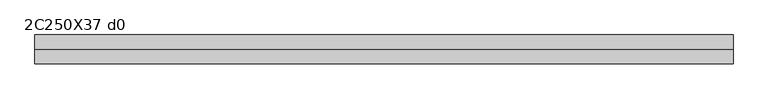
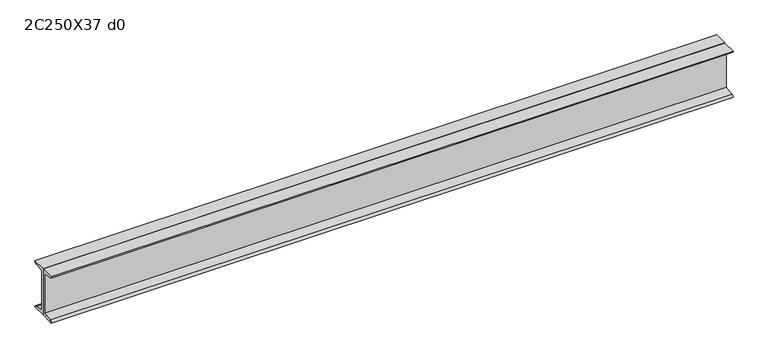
"""IFC4 building model written with IfcOpenShell, lengths in millimetres: beam geometry, Profilato a doppia C : 2C250X37 d0."""

from ifc_helpers import new_model, si_unit, point, frame, frame_2d, origin, place, context, project, spatial, polyline, circle_curve, trimmed, segment, composite_curve, outline, extrude, source, transform, mapped, element, save


def beam_2c250x37_d0_898f56b5(model_context):
    return source(origin(), model_context, "Body", "SweptSolid", [
        extrude(outline(composite_curve([segment(polyline([(0.5, 127.0), (73.8, 127.0)]), True, "CONTINUOUS"), segment(trimmed(circle_curve(frame_2d((62.7, 127.0)), 11.1), [point((73.8, 127.0))], [point((62.7, 115.9))], False, "CARTESIAN"), True, "CONTINUOUS"), segment(polyline([(62.7, 115.9), (13.9, 108.1708393), (13.9, -108.1708393), (62.7, -115.9)]), True, "CONTINUOUS"), segment(trimmed(circle_curve(frame_2d((62.7, -127.0)), 11.1), [point((62.7, -115.9))], [point((73.8, -127.0))], False, "CARTESIAN"), True, "CONTINUOUS"), segment(polyline([(73.8, -127.0), (0.5, -127.0), (0.5, 127.0)]), True, "CONTINUOUS")], self_intersect=False)), frame((-1780.5, 0.0, 0.0), z_axis=(1.0, 0.0, 0.0), x_axis=(0.0, 1.0, 0.0)), (0.0, 0.0, 1.0), 3553.0),
        extrude(outline(composite_curve([segment(polyline([(-0.5, 127.0), (-0.5, -127.0), (-73.8, -127.0)]), True, "CONTINUOUS"), segment(trimmed(circle_curve(frame_2d((-62.7, -127.0)), 11.1), [point((-73.8, -127.0))], [point((-62.7, -115.9))], False, "CARTESIAN"), True, "CONTINUOUS"), segment(polyline([(-62.7, -115.9), (-13.9, -108.1708393), (-13.9, 108.1708393), (-62.7, 115.9)]), True, "CONTINUOUS"), segment(trimmed(circle_curve(frame_2d((-62.7, 127.0)), 11.1), [point((-62.7, 115.9))], [point((-73.8, 127.0))], False, "CARTESIAN"), True, "CONTINUOUS"), segment(polyline([(-73.8, 127.0), (-0.5, 127.0)]), True, "CONTINUOUS")], self_intersect=False)), frame((-1780.5, 0.0, 0.0), z_axis=(1.0, 0.0, 0.0), x_axis=(0.0, 1.0, 0.0)), (0.0, 0.0, 1.0), 3553.0),
    ])


if __name__ == "__main__":
    model = new_model("IFC4")
    model_context = context("Model", 3, world=origin())
    ifc_project = project(units=[si_unit("LENGTHUNIT", "METRE", prefix="MILLI")], contexts=[model_context])
    site = spatial("IfcSite", under=ifc_project)
    building = spatial("IfcBuilding", under=site)
    placement = place(None, origin())
    beam_2c250x37_d0_shape = beam_2c250x37_d0_898f56b5(model_context)
    element("IfcBeam", 1, ObjectType="Profilato a doppia C : 2C250X37 d0", at=placement, inside=building, context=model_context, shape_type="MappedRepresentation", body=[
        mapped(beam_2c250x37_d0_shape, transform((0.0, 0.0, 0.0), x_axis=(1.0, 0.0, 0.0), y_axis=(0.0, 1.0, 0.0), z_axis=(0.0, 0.0, 1.0))),
    ])
    save(model, "model.ifc")
